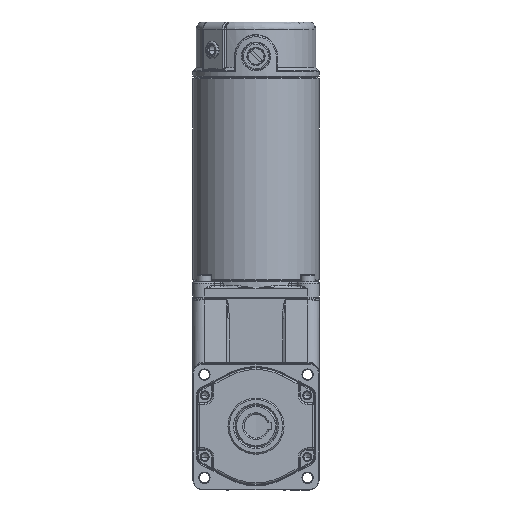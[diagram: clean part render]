
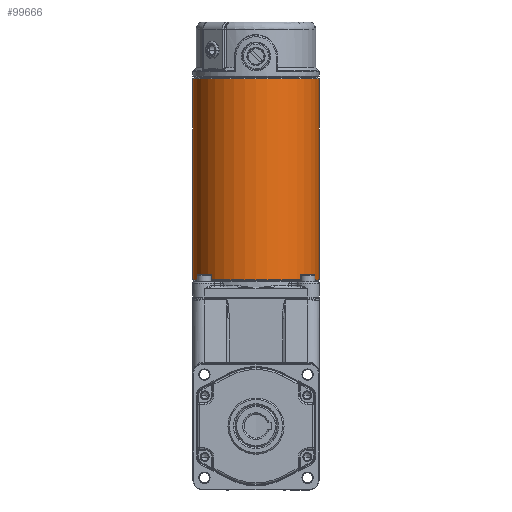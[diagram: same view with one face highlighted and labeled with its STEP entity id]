
A CAD part, front view. The second image highlights one B-rep face of the part: STEP entity #99666.
In plain terms, the highlighted cylindrical face has radius 45 mm (diameter 90 mm), a partial arc.
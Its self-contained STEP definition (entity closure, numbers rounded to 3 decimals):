
#541 = CARTESIAN_POINT ( 'NONE',  ( 0., 0., 0. ) ) ;
#8502 = DIRECTION ( 'NONE',  ( 0., 0., 1. ) ) ;
#10755 = AXIS2_PLACEMENT_3D ( 'NONE', #55347, #47636, #8502 ) ;
#14668 = ORIENTED_EDGE ( 'NONE', *, *, #53788, .T. ) ;
#15440 = FACE_OUTER_BOUND ( 'NONE', #86323, .T. ) ;
#17749 = EDGE_CURVE ( 'NONE', #78652, #24966, #65224, .T. ) ;
#18541 = DIRECTION ( 'NONE',  ( 0., 0., 1. ) ) ;
#19585 = LINE ( 'NONE', #82370, #46851 ) ;
#23741 = CARTESIAN_POINT ( 'NONE',  ( 0., 1., 45. ) ) ;
#23981 = ORIENTED_EDGE ( 'NONE', *, *, #17749, .F. ) ;
#24966 = VERTEX_POINT ( 'NONE', #63704 ) ;
#27326 = CARTESIAN_POINT ( 'NONE',  ( 0., 144., 0. ) ) ;
#29402 = VERTEX_POINT ( 'NONE', #76145 ) ;
#34493 = ORIENTED_EDGE ( 'NONE', *, *, #99114, .T. ) ;
#41925 = VECTOR ( 'NONE', #49785, 1000. ) ;
#46851 = VECTOR ( 'NONE', #98302, 1000. ) ;
#46868 = CYLINDRICAL_SURFACE ( 'NONE', #86290, 45. ) ;
#47636 = DIRECTION ( 'NONE',  ( 0., 1., 0. ) ) ;
#49785 = DIRECTION ( 'NONE',  ( 0., 1., 0. ) ) ;
#53788 = EDGE_CURVE ( 'NONE', #78652, #29402, #73183, .T. ) ;
#54959 = AXIS2_PLACEMENT_3D ( 'NONE', #27326, #81322, #18541 ) ;
#55347 = CARTESIAN_POINT ( 'NONE',  ( 0., 1., 0. ) ) ;
#58247 = EDGE_CURVE ( 'NONE', #101090, #24966, #87856, .T. ) ;
#63704 = CARTESIAN_POINT ( 'NONE',  ( 0., 144., 45. ) ) ;
#65224 = LINE ( 'NONE', #88887, #41925 ) ;
#73183 = CIRCLE ( 'NONE', #10755, 45. ) ;
#76145 = CARTESIAN_POINT ( 'NONE',  ( 0., 1., -45. ) ) ;
#78652 = VERTEX_POINT ( 'NONE', #23741 ) ;
#79133 = ORIENTED_EDGE ( 'NONE', *, *, #58247, .T. ) ;
#81322 = DIRECTION ( 'NONE',  ( 0., -1., 0. ) ) ;
#82370 = CARTESIAN_POINT ( 'NONE',  ( 0., 0., -45. ) ) ;
#86290 = AXIS2_PLACEMENT_3D ( 'NONE', #541, #86965, #94682 ) ;
#86323 = EDGE_LOOP ( 'NONE', ( #14668, #34493, #79133, #23981 ) ) ;
#86965 = DIRECTION ( 'NONE',  ( 0., 1., 0. ) ) ;
#87856 = CIRCLE ( 'NONE', #54959, 45. ) ;
#88887 = CARTESIAN_POINT ( 'NONE',  ( 0., 0., 45. ) ) ;
#94682 = DIRECTION ( 'NONE',  ( 0., 0., 1. ) ) ;
#95460 = CARTESIAN_POINT ( 'NONE',  ( 0., 144., -45. ) ) ;
#98302 = DIRECTION ( 'NONE',  ( 0., 1., 0. ) ) ;
#99114 = EDGE_CURVE ( 'NONE', #29402, #101090, #19585, .T. ) ;
#99666 = ADVANCED_FACE ( 'NONE', ( #15440 ), #46868, .T. ) ;
#101090 = VERTEX_POINT ( 'NONE', #95460 ) ;
